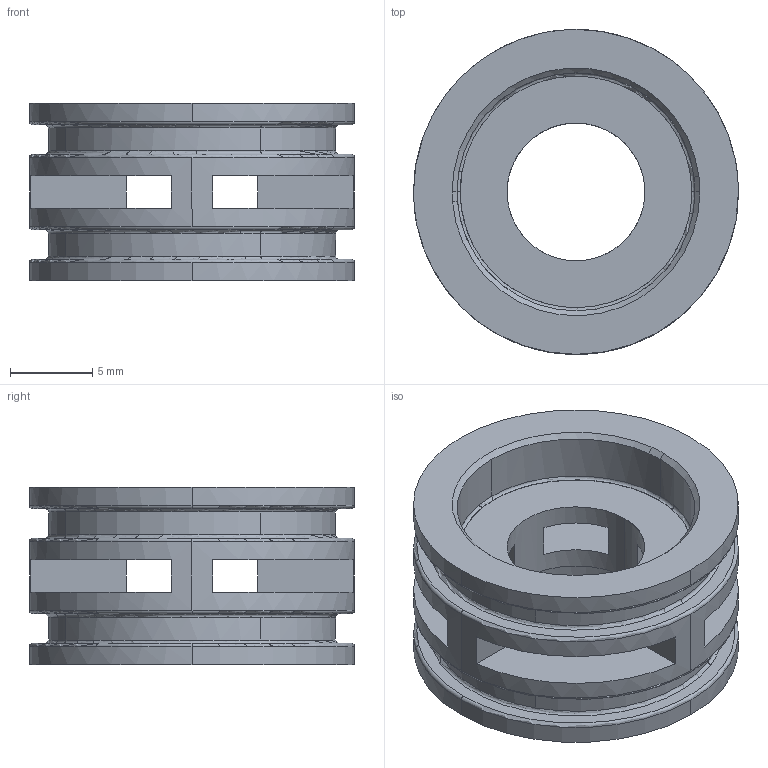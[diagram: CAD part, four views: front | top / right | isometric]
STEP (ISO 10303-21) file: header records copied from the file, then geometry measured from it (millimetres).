
FILE_DESCRIPTION(('CATIA V5 STEP Exchange'),'2;1');
FILE_NAME('F:\b.光华荣昌项目任务\3.0平台--H6\VDC阀\膜片式结构\阻尼密封支撑圈.stp','2021-07-05T05:23:37+00:00',('none'),('none'),'CATIA Version 5 Release 20 GA (IN-10)','CATIA V5 STEP AP214','none');
FILE_SCHEMA(('AUTOMOTIVE_DESIGN { 1 0 10303 214 1 1 1 1 }'));
Length unit declared in the file: millimetre
Products named in the file (1): BPC0010081
Bounding box: 19.8 x 19.8 x 10.8 mm (x, y, z)
Volume: 1387.4 mm3; surface area: 2119.5 mm2
Topology: 1 solids, 1 shells, 111 faces, 279 edges, 176 vertices
Faces by surface type: torus 40, cylinder 31, plane 24, extrusion 8, cone 8
Entity records: 3722 total; most frequent: CARTESIAN_POINT 1162, ORIENTED_EDGE 558, DIRECTION 429, EDGE_CURVE 279, AXIS2_PLACEMENT_3D 255, VERTEX_POINT 176, CIRCLE 165, EDGE_LOOP 127
